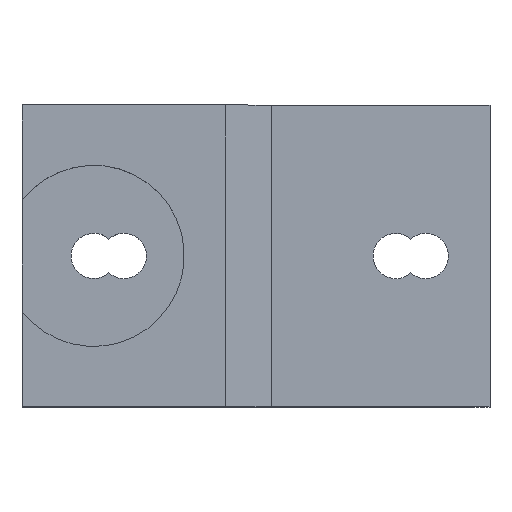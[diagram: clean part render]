
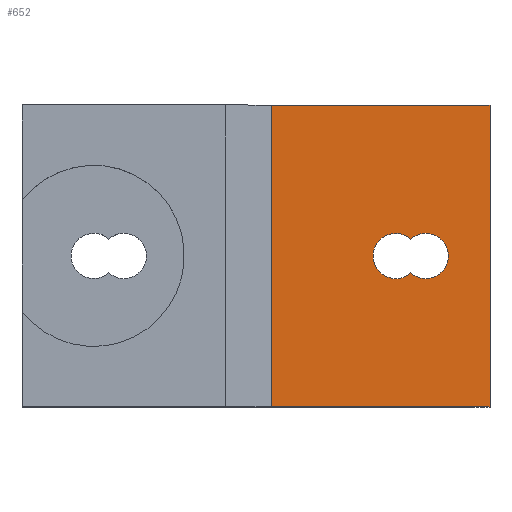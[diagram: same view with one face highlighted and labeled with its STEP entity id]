
A CAD part, top view. The second image highlights one B-rep face of the part: STEP entity #652.
In plain terms, the highlighted planar face has unit normal (0, 0, 1).
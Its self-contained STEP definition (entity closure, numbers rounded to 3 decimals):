
#21=DIRECTION('',(1.,0.,0.));
#22=VECTOR('',#21,29.);
#23=CARTESIAN_POINT('',(19.5,-20.,-10.5));
#24=LINE('',#23,#22);
#80=DIRECTION('',(0.,1.,0.));
#81=VECTOR('',#80,40.);
#82=CARTESIAN_POINT('',(48.5,-20.,-10.5));
#83=LINE('',#82,#81);
#172=DIRECTION('',(1.,0.,0.));
#173=VECTOR('',#172,29.);
#174=CARTESIAN_POINT('',(19.5,20.,-10.5));
#175=LINE('',#174,#173);
#196=DIRECTION('',(0.,1.,0.));
#197=VECTOR('',#196,40.);
#198=CARTESIAN_POINT('',(19.5,-20.,-10.5));
#199=LINE('',#198,#197);
#200=CARTESIAN_POINT('',(36.,0.,-10.5));
#201=DIRECTION('',(0.,0.,-1.));
#202=DIRECTION('',(0.667,-0.745,0.));
#203=AXIS2_PLACEMENT_3D('',#200,#201,#202);
#205=CARTESIAN_POINT('',(40.,0.,-10.5));
#206=DIRECTION('',(0.,0.,-1.));
#207=DIRECTION('',(-0.667,0.745,0.));
#208=AXIS2_PLACEMENT_3D('',#205,#206,#207);
#297=CARTESIAN_POINT('',(19.5,-20.,-10.5));
#298=CARTESIAN_POINT('',(48.5,-20.,-10.5));
#299=VERTEX_POINT('',#297);
#300=VERTEX_POINT('',#298);
#307=CARTESIAN_POINT('',(19.5,20.,-10.5));
#308=CARTESIAN_POINT('',(48.5,20.,-10.5));
#309=VERTEX_POINT('',#307);
#310=VERTEX_POINT('',#308);
#359=CARTESIAN_POINT('',(38.,-2.236,-10.5));
#360=CARTESIAN_POINT('',(38.,2.236,-10.5));
#361=VERTEX_POINT('',#359);
#362=VERTEX_POINT('',#360);
#634=CARTESIAN_POINT('',(19.5,-20.,-10.5));
#635=DIRECTION('',(0.,0.,1.));
#636=DIRECTION('',(1.,0.,0.));
#637=AXIS2_PLACEMENT_3D('',#634,#635,#636);
#638=PLANE('',#637);
#639=ORIENTED_EDGE('',*,*,#402,.F.);
#641=ORIENTED_EDGE('',*,*,#640,.T.);
#642=ORIENTED_EDGE('',*,*,#619,.T.);
#643=ORIENTED_EDGE('',*,*,#474,.F.);
#644=EDGE_LOOP('',(#639,#641,#642,#643));
#645=FACE_OUTER_BOUND('',#644,.F.);
#647=ORIENTED_EDGE('',*,*,#646,.F.);
#649=ORIENTED_EDGE('',*,*,#648,.F.);
#650=EDGE_LOOP('',(#647,#649));
#651=FACE_BOUND('',#650,.F.);
#652=ADVANCED_FACE('',(#645,#651),#638,.T.);
#204=CIRCLE('',#203,3.);
#209=CIRCLE('',#208,3.);
#402=EDGE_CURVE('',#299,#300,#24,.T.);
#474=EDGE_CURVE('',#300,#310,#83,.T.);
#619=EDGE_CURVE('',#309,#310,#175,.T.);
#640=EDGE_CURVE('',#299,#309,#199,.T.);
#646=EDGE_CURVE('',#361,#362,#204,.T.);
#648=EDGE_CURVE('',#362,#361,#209,.T.);
